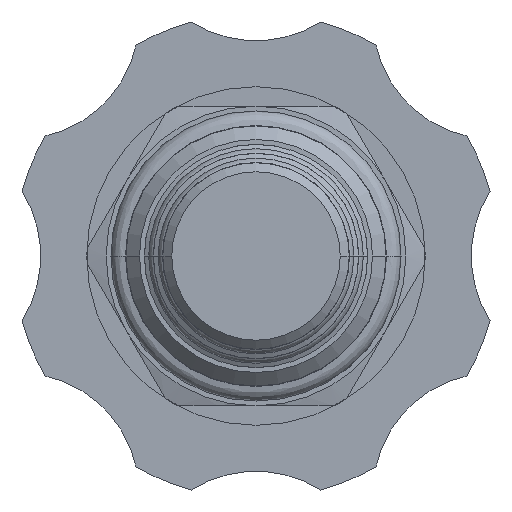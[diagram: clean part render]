
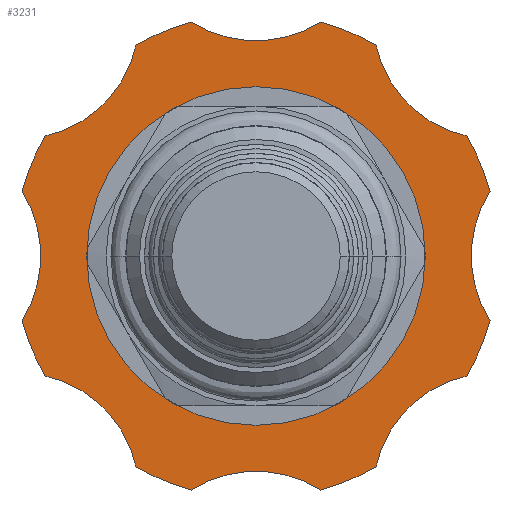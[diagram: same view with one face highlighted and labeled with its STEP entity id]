
A CAD part, front view. The second image highlights one B-rep face of the part: STEP entity #3231.
In plain terms, the highlighted planar face has unit normal (0, -1, 0).
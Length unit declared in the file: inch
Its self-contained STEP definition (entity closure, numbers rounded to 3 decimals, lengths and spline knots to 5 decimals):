
#49=CARTESIAN_POINT('',(0.,2.024,0.));
#50=DIRECTION('',(0.,1.,0.));
#51=DIRECTION('',(-1.,0.,0.));
#52=AXIS2_PLACEMENT_3D('',#49,#50,#51);
#58=CARTESIAN_POINT('',(0.,2.024,0.));
#59=DIRECTION('',(0.,-1.,0.));
#60=DIRECTION('',(-1.,0.,0.));
#61=AXIS2_PLACEMENT_3D('',#58,#59,#60);
#67=CARTESIAN_POINT('',(-0.79055,2.024,0.79055));
#68=DIRECTION('',(0.,1.,0.));
#69=DIRECTION('',(0.977,0.,-0.215));
#70=AXIS2_PLACEMENT_3D('',#67,#68,#69);
#72=CARTESIAN_POINT('',(0.,2.024,1.118));
#73=DIRECTION('',(0.,1.,0.));
#74=DIRECTION('',(0.538,0.,-0.843));
#75=AXIS2_PLACEMENT_3D('',#72,#73,#74);
#77=CARTESIAN_POINT('',(0.79055,2.024,0.79055));
#78=DIRECTION('',(0.,1.,0.));
#79=DIRECTION('',(-0.215,0.,-0.977));
#80=AXIS2_PLACEMENT_3D('',#77,#78,#79);
#82=CARTESIAN_POINT('',(0.79055,2.024,-0.79055));
#83=DIRECTION('',(0.,1.,0.));
#84=DIRECTION('',(-0.977,0.,0.215));
#85=AXIS2_PLACEMENT_3D('',#82,#83,#84);
#87=CARTESIAN_POINT('',(0.,2.024,-1.118));
#88=DIRECTION('',(0.,1.,0.));
#89=DIRECTION('',(-0.538,0.,0.843));
#90=AXIS2_PLACEMENT_3D('',#87,#88,#89);
#92=CARTESIAN_POINT('',(-0.79055,2.024,-0.79055));
#93=DIRECTION('',(0.,1.,0.));
#94=DIRECTION('',(0.215,0.,0.977));
#95=AXIS2_PLACEMENT_3D('',#92,#93,#94);
#97=CARTESIAN_POINT('',(-1.118,2.024,0.));
#98=DIRECTION('',(0.,1.,0.));
#99=DIRECTION('',(0.843,0.,0.538));
#100=AXIS2_PLACEMENT_3D('',#97,#98,#99);
#158=CARTESIAN_POINT('',(0.,2.024,0.));
#159=DIRECTION('',(0.,-1.,0.));
#160=DIRECTION('',(-0.964,0.,-0.266));
#161=AXIS2_PLACEMENT_3D('',#158,#159,#160);
#265=CARTESIAN_POINT('',(0.,2.024,0.));
#266=DIRECTION('',(0.,-1.,0.));
#267=DIRECTION('',(-0.266,0.,0.964));
#268=AXIS2_PLACEMENT_3D('',#265,#266,#267);
#330=CARTESIAN_POINT('',(0.,2.024,0.));
#331=DIRECTION('',(0.,-1.,0.));
#332=DIRECTION('',(0.494,0.,0.87));
#333=AXIS2_PLACEMENT_3D('',#330,#331,#332);
#395=CARTESIAN_POINT('',(0.,2.024,0.));
#396=DIRECTION('',(0.,-1.,0.));
#397=DIRECTION('',(0.964,0.,0.266));
#398=AXIS2_PLACEMENT_3D('',#395,#396,#397);
#404=CARTESIAN_POINT('',(1.118,2.024,0.));
#405=DIRECTION('',(0.,1.,0.));
#406=DIRECTION('',(-0.843,0.,-0.538));
#407=AXIS2_PLACEMENT_3D('',#404,#405,#406);
#465=CARTESIAN_POINT('',(0.,2.024,0.));
#466=DIRECTION('',(0.,-1.,0.));
#467=DIRECTION('',(0.87,0.,-0.494));
#468=AXIS2_PLACEMENT_3D('',#465,#466,#467);
#530=CARTESIAN_POINT('',(0.,2.024,0.));
#531=DIRECTION('',(0.,-1.,0.));
#532=DIRECTION('',(0.266,0.,-0.964));
#533=AXIS2_PLACEMENT_3D('',#530,#531,#532);
#595=CARTESIAN_POINT('',(0.,2.024,0.));
#596=DIRECTION('',(0.,-1.,0.));
#597=DIRECTION('',(-0.494,0.,-0.87));
#598=AXIS2_PLACEMENT_3D('',#595,#596,#597);
#608=CARTESIAN_POINT('',(0.,2.024,0.));
#609=DIRECTION('',(0.,-1.,0.));
#610=DIRECTION('',(-0.87,0.,0.494));
#611=AXIS2_PLACEMENT_3D('',#608,#609,#610);
#2971=CARTESIAN_POINT('',(-0.565,2.024,0.));
#2972=CARTESIAN_POINT('',(0.565,2.024,0.));
#2973=VERTEX_POINT('',#2971);
#2974=VERTEX_POINT('',#2972);
#2995=CARTESIAN_POINT('',(-0.39994,2.024,0.70438));
#2996=CARTESIAN_POINT('',(-0.70438,2.024,0.39994));
#2997=VERTEX_POINT('',#2995);
#2998=VERTEX_POINT('',#2996);
#2999=CARTESIAN_POINT('',(0.21527,2.024,0.78087));
#3000=CARTESIAN_POINT('',(-0.21527,2.024,0.78087));
#3001=VERTEX_POINT('',#2999);
#3002=VERTEX_POINT('',#3000);
#3003=CARTESIAN_POINT('',(0.70438,2.024,0.39994));
#3004=CARTESIAN_POINT('',(0.39994,2.024,0.70438));
#3005=VERTEX_POINT('',#3003);
#3006=VERTEX_POINT('',#3004);
#3007=CARTESIAN_POINT('',(0.78087,2.024,0.21527));
#3008=VERTEX_POINT('',#3007);
#3009=CARTESIAN_POINT('',(0.78087,2.024,-0.21527));
#3010=VERTEX_POINT('',#3009);
#3011=CARTESIAN_POINT('',(0.39994,2.024,-0.70438));
#3012=CARTESIAN_POINT('',(0.70438,2.024,-0.39994));
#3013=VERTEX_POINT('',#3011);
#3014=VERTEX_POINT('',#3012);
#3015=CARTESIAN_POINT('',(-0.21527,2.024,-0.78087));
#3016=CARTESIAN_POINT('',(0.21527,2.024,-0.78087));
#3017=VERTEX_POINT('',#3015);
#3018=VERTEX_POINT('',#3016);
#3019=CARTESIAN_POINT('',(-0.70438,2.024,-0.39994));
#3020=CARTESIAN_POINT('',(-0.39994,2.024,-0.70438));
#3021=VERTEX_POINT('',#3019);
#3022=VERTEX_POINT('',#3020);
#3023=CARTESIAN_POINT('',(-0.78087,2.024,0.21527));
#3024=VERTEX_POINT('',#3023);
#3025=CARTESIAN_POINT('',(-0.78087,2.024,-0.21527));
#3026=VERTEX_POINT('',#3025);
#3188=CARTESIAN_POINT('',(0.,2.024,0.));
#3189=DIRECTION('',(0.,1.,0.));
#3190=DIRECTION('',(-1.,0.,0.));
#3191=AXIS2_PLACEMENT_3D('',#3188,#3189,#3190);
#3192=PLANE('',#3191);
#3194=ORIENTED_EDGE('',*,*,#3193,.F.);
#3196=ORIENTED_EDGE('',*,*,#3195,.F.);
#3198=ORIENTED_EDGE('',*,*,#3197,.F.);
#3200=ORIENTED_EDGE('',*,*,#3199,.F.);
#3202=ORIENTED_EDGE('',*,*,#3201,.F.);
#3204=ORIENTED_EDGE('',*,*,#3203,.F.);
#3206=ORIENTED_EDGE('',*,*,#3205,.F.);
#3208=ORIENTED_EDGE('',*,*,#3207,.F.);
#3210=ORIENTED_EDGE('',*,*,#3209,.F.);
#3212=ORIENTED_EDGE('',*,*,#3211,.F.);
#3214=ORIENTED_EDGE('',*,*,#3213,.F.);
#3216=ORIENTED_EDGE('',*,*,#3215,.F.);
#3218=ORIENTED_EDGE('',*,*,#3217,.F.);
#3220=ORIENTED_EDGE('',*,*,#3219,.F.);
#3222=ORIENTED_EDGE('',*,*,#3221,.F.);
#3224=ORIENTED_EDGE('',*,*,#3223,.F.);
#3225=EDGE_LOOP('',(#3194,#3196,#3198,#3200,#3202,#3204,#3206,#3208,#3210,#3212,
#3214,#3216,#3218,#3220,#3222,#3224));
#3226=FACE_OUTER_BOUND('',#3225,.F.);
#3227=ORIENTED_EDGE('',*,*,#3182,.T.);
#3228=ORIENTED_EDGE('',*,*,#3168,.F.);
#3229=EDGE_LOOP('',(#3227,#3228));
#3230=FACE_BOUND('',#3229,.F.);
#3231=ADVANCED_FACE('',(#3226,#3230),#3192,.F.);
#53=CIRCLE('',#52,0.565);
#62=CIRCLE('',#61,0.565);
#71=CIRCLE('',#70,0.4);
#76=CIRCLE('',#75,0.4);
#81=CIRCLE('',#80,0.4);
#86=CIRCLE('',#85,0.4);
#91=CIRCLE('',#90,0.4);
#96=CIRCLE('',#95,0.4);
#101=CIRCLE('',#100,0.4);
#162=CIRCLE('',#161,0.81);
#269=CIRCLE('',#268,0.81);
#334=CIRCLE('',#333,0.81);
#399=CIRCLE('',#398,0.81);
#408=CIRCLE('',#407,0.4);
#469=CIRCLE('',#468,0.81);
#534=CIRCLE('',#533,0.81);
#599=CIRCLE('',#598,0.81);
#612=CIRCLE('',#611,0.81);
#3168=EDGE_CURVE('',#2973,#2974,#53,.T.);
#3182=EDGE_CURVE('',#2973,#2974,#62,.T.);
#3193=EDGE_CURVE('',#3024,#3026,#101,.T.);
#3195=EDGE_CURVE('',#2998,#3024,#612,.T.);
#3197=EDGE_CURVE('',#2997,#2998,#71,.T.);
#3199=EDGE_CURVE('',#3002,#2997,#269,.T.);
#3201=EDGE_CURVE('',#3001,#3002,#76,.T.);
#3203=EDGE_CURVE('',#3006,#3001,#334,.T.);
#3205=EDGE_CURVE('',#3005,#3006,#81,.T.);
#3207=EDGE_CURVE('',#3008,#3005,#399,.T.);
#3209=EDGE_CURVE('',#3010,#3008,#408,.T.);
#3211=EDGE_CURVE('',#3014,#3010,#469,.T.);
#3213=EDGE_CURVE('',#3013,#3014,#86,.T.);
#3215=EDGE_CURVE('',#3018,#3013,#534,.T.);
#3217=EDGE_CURVE('',#3017,#3018,#91,.T.);
#3219=EDGE_CURVE('',#3022,#3017,#599,.T.);
#3221=EDGE_CURVE('',#3021,#3022,#96,.T.);
#3223=EDGE_CURVE('',#3026,#3021,#162,.T.);
